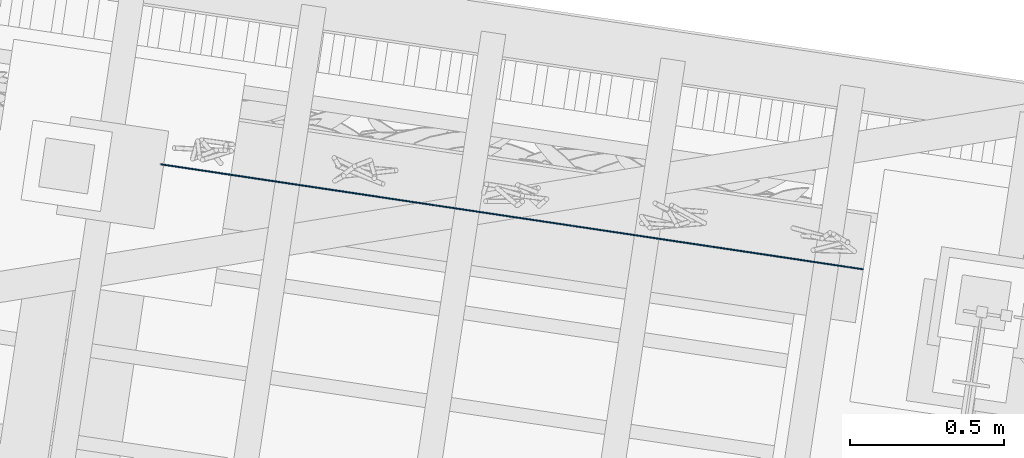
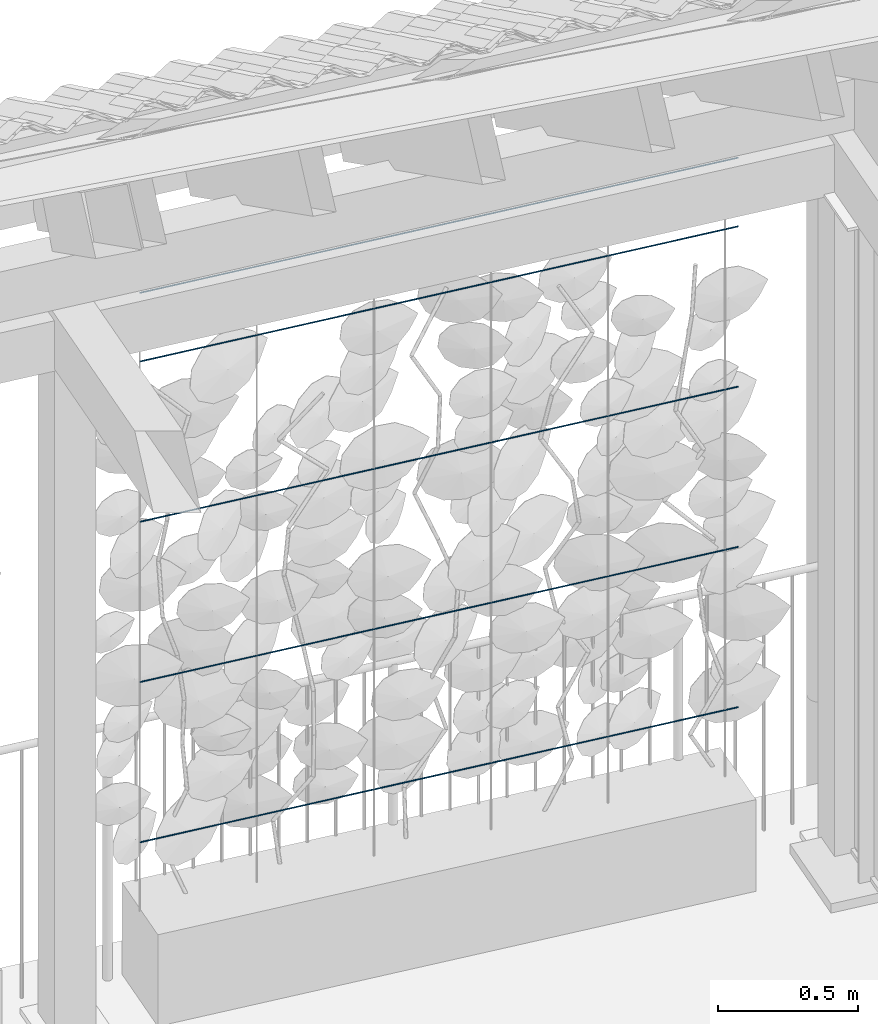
# One storey, part 35 of 131: 5 members, 1 element without a shape of its own.
"""IFC4 building model written with IfcOpenShell, lengths in metres."""

from ifc_helpers import new_model, si_unit, direction, frame, origin_with_axes, place, context, subcontext, project, spatial, circle, extrude, material, material_profile, profile_set, profile_usage, type_object, element, aggregate, save


model = new_model("IFC4")

# Units and contexts
model_context = context("Model", 3, precision=1e-05, world=origin_with_axes(), true_north=direction((0.0, 1.0)))
body_context = subcontext(model_context, "Body", "Model", "MODEL_VIEW")
ifc_project = project(units=[si_unit("VOLUMEUNIT", "CUBIC_METRE"), si_unit("LENGTHUNIT", "METRE"), si_unit("AREAUNIT", "SQUARE_METRE")], contexts=[model_context])

# Site, building, storey
site_placement = place(None, origin_with_axes())
site = spatial("IfcSite", under=ifc_project, at=site_placement, Name="Lares · Rua das Mercês · artigo 4771")
building_placement = place(site_placement, frame((15.0, 9.7, 14.65), z_axis=(0.0, 0.0, 1.0), x_axis=(0.989015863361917, -0.147809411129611, 0.0)))
building = spatial("IfcBuilding", under=site, at=building_placement, Name="Casa Sobreposta")
storey_placement = place(building_placement, origin_with_axes())
storey = spatial("IfcBuildingStorey", under=building, at=storey_placement, Name="00 · Habitação e estacionamento", Elevation=14.65)

# Assembly, members
assembly_placement = place(storey_placement, origin_with_axes())
assembly = element("IfcElementAssembly", 1, at=assembly_placement, inside=storey, Name="Fachada sul e pátio · estrutura e trepadeiras", ObjectType="LIVING_SHADE_TRELLIS", PredefinedType="USERDEFINED")
ifc_material = material(Name="Aço galvanizado / Stahl verzinkt", Category="steel")
ifc_material_profile = material_profile(ifc_material, circle(Radius=0.002))
ifc_profile_set = profile_set([ifc_material_profile], Name="D0.004")
ifc_profile_usage_1 = profile_usage(ifc_profile_set)
member_type = type_object("IfcMemberType", Name="D0.004 / galvanized", PredefinedType="NOTDEFINED", material=ifc_profile_set)
member_1_placement = place(assembly_placement, frame((-2.7, 6.48, 0.65), z_axis=(1.0, 0.0, 0.0), x_axis=(0.0, -1.0, 0.0)))
member_1 = element("IfcMember", 2, at=member_1_placement, type_object=member_type, material=ifc_profile_usage_1, Name="Trepadeiras · fio horizontal", context=body_context, shape_type="SweptSolid", body=[
    extrude(circle(Radius=0.002), origin_with_axes(), (0.0, 0.0, 1.0), 2.3),
])
ifc_profile_usage_2 = profile_usage(ifc_profile_set)
member_2_placement = place(assembly_placement, frame((-2.7, 6.48, 1.35), z_axis=(1.0, 0.0, 0.0), x_axis=(0.0, -1.0, 0.0)))
member_2 = element("IfcMember", 3, at=member_2_placement, type_object=member_type, material=ifc_profile_usage_2, Name="Trepadeiras · fio horizontal", context=body_context, shape_type="SweptSolid", body=[
    extrude(circle(Radius=0.002), origin_with_axes(), (0.0, 0.0, 1.0), 2.3),
])
ifc_profile_usage_3 = profile_usage(ifc_profile_set)
member_3_placement = place(assembly_placement, frame((-2.7, 6.48, 2.05), z_axis=(1.0, 0.0, 0.0), x_axis=(0.0, -1.0, 0.0)))
member_3 = element("IfcMember", 4, at=member_3_placement, type_object=member_type, material=ifc_profile_usage_3, Name="Trepadeiras · fio horizontal", context=body_context, shape_type="SweptSolid", body=[
    extrude(circle(Radius=0.002), origin_with_axes(), (0.0, 0.0, 1.0), 2.3),
])
ifc_profile_usage_4 = profile_usage(ifc_profile_set)
member_4_placement = place(assembly_placement, frame((-2.7, 6.48, 2.75), z_axis=(1.0, 0.0, 0.0), x_axis=(0.0, -1.0, 0.0)))
member_4 = element("IfcMember", 5, at=member_4_placement, type_object=member_type, material=ifc_profile_usage_4, Name="Trepadeiras · fio horizontal", context=body_context, shape_type="SweptSolid", body=[
    extrude(circle(Radius=0.002), origin_with_axes(), (0.0, 0.0, 1.0), 2.3),
])
ifc_profile_usage_5 = profile_usage(ifc_profile_set)
member_5_placement = place(assembly_placement, frame((-2.7, 6.48, 3.05), z_axis=(1.0, 0.0, 0.0), x_axis=(0.0, -1.0, 0.0)))
member_5 = element("IfcMember", 6, at=member_5_placement, type_object=member_type, material=ifc_profile_usage_5, Name="Trepadeiras · fio horizontal", context=body_context, shape_type="SweptSolid", body=[
    extrude(circle(Radius=0.002), origin_with_axes(), (0.0, 0.0, 1.0), 2.3),
])
aggregate(assembly, [member_1, member_2, member_3, member_4, member_5])

save(model, "model.ifc")
